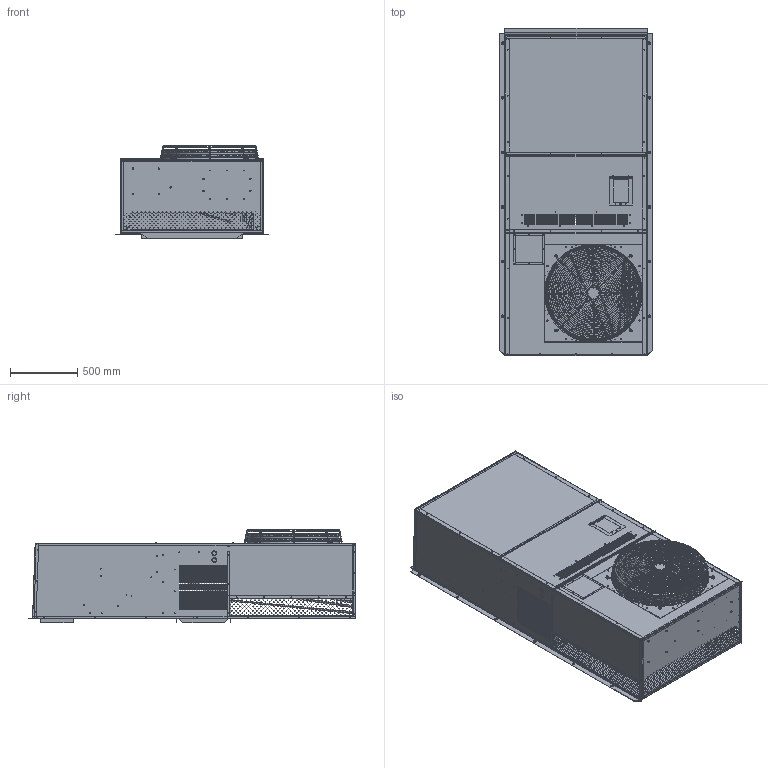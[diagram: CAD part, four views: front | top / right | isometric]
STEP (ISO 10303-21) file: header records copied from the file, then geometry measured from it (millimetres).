
FILE_DESCRIPTION (( 'STEP AP214' ), '1' );
FILE_NAME ('MAA1048H+C+1+B1.STEP', '2022-11-03T20:41:20', ( '' ), ( '' ), 'SwSTEP 2.0', 'SolidWorks 2022', '' );
FILE_SCHEMA (( 'AUTOMOTIVE_DESIGN' ));
Length unit declared in the file: inch
Products named in the file (31): SMM23026X_SMM23026X-IN; 93276; SMM12016X_SMM12016X-IN; SMM45060X; SMM23025X_SMM23025X-IN; SMM13046X; SMM12016X; 90740_THREADS; SD12900; SMM12001X; SMM10020X; SMM14017X_SMM14017X; SMM14017X; 93438; SMM16066X; SMM22009X; MAA1048H+C+1+B1; SMM23025X; SMM13047X_SMM13047X; SMM23023X; 90610_99904A102; SMM22009X_SMM22009X-IN; 81794; SMM23026X; SMM10020X_SMM10020X-SW; 93442; SMM13046X_SMM13046X; SMM45028X; SMM13047X; SMM12002X; SMM45027X
Assembly tree (47 placements, depth 3):
  MAA1048H+C+1+B1
    SMM10020X_SMM10020X-SW
      SMM10020X
    SMM12001X
    SMM12002X  x2
    SMM12016X_SMM12016X-IN
      SMM12016X
    SMM13046X_SMM13046X
      SMM13046X
    SMM13047X_SMM13047X
      SMM13047X
    SMM14017X_SMM14017X
      SMM14017X
    SMM16066X
    SMM22009X_SMM22009X-IN
      SMM22009X
    SMM23025X_SMM23025X-IN
      SMM23025X
    SMM23026X_SMM23026X-IN
      SMM23026X
    SMM45027X
    SMM45028X
    SMM45060X
    SD12900
      SMM23023X
      81794
      93276
      90610_99904A102  x4
      90740_THREADS  x8
      93438  x4
      93442  x4
Bounding box: 1135.33 x 2437.56 x 697.05 mm (x, y, z)
Volume: 9867506.1 mm3; surface area: 20292021.4 mm2
Topology: 67 solids, 67 shells, 7783 faces, 22302 edges, 14534 vertices
Faces by surface type: plane 5366, cylinder 1885, torus 224, bspline 204, cone 104
Entity records: 246452 total; most frequent: CARTESIAN_POINT 50910, ORIENTED_EDGE 40364, DIRECTION 36660, EDGE_CURVE 20182, VECTOR 15730, LINE 15730, VERTEX_POINT 13139, AXIS2_PLACEMENT_3D 10465
